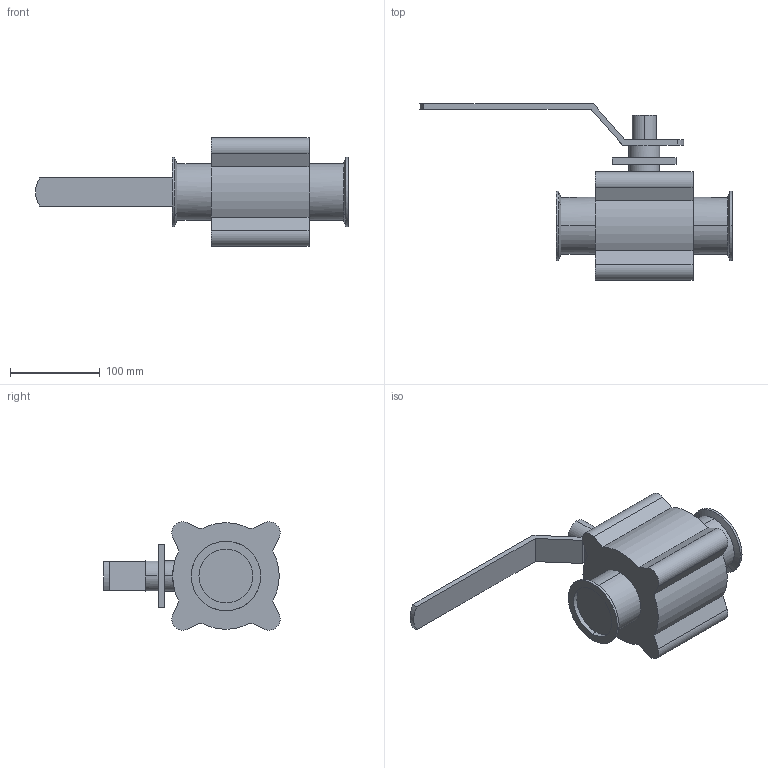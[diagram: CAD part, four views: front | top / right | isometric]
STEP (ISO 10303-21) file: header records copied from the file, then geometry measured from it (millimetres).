
FILE_DESCRIPTION(('Creo Elements/Direct Modeling STEP Export'),'2;1');
FILE_NAME('BLV1-2.5T-H-12CL.stp','2019-05-10T 8:12:38',(''),(''),'Creo Elements/Direct Modeling STEP processor for AP214 (Solid Model)','Creo Elements/Direct Modeling 19.0F 14-Feb-2017 (C) Parametric Technology GmbH','');
FILE_SCHEMA(('AUTOMOTIVE_DESIGN { 1 0 10303 214 1 1 1 1 }'));
Length unit declared in the file: millimetre
Products named in the file (2): BLV1-2.5T-H-12CL
Assembly tree (1 placements, depth 2):
  BLV1-2.5T-H-12CL
    BLV1-2.5T-H-12CL
Bounding box: 349.4 x 196.84 x 121.07 mm (x, y, z)
Volume: 1837272.4 mm3; surface area: 141572.1 mm2
Topology: 1 solids, 1 shells, 64 faces, 159 edges, 105 vertices
Faces by surface type: plane 32, cylinder 28, cone 4
Entity records: 1819 total; most frequent: CARTESIAN_POINT 339, ORIENTED_EDGE 318, DIRECTION 278, EDGE_CURVE 159, VERTEX_POINT 105, AXIS2_PLACEMENT_3D 95, VECTOR 88, LINE 88
